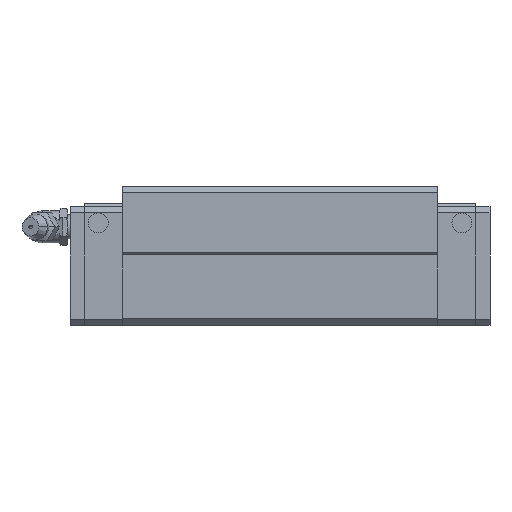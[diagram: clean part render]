
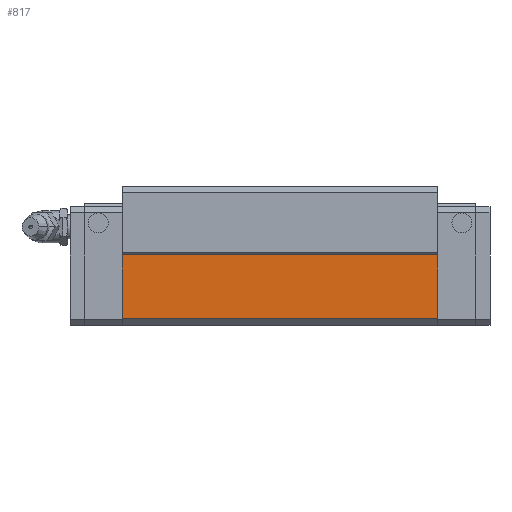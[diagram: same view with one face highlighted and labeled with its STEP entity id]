
A CAD part, front view. The second image highlights one B-rep face of the part: STEP entity #817.
In plain terms, the highlighted planar face has unit normal (0, -1, 0).
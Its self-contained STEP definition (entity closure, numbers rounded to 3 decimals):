
#756=CARTESIAN_POINT('POINT46',(91.6,-23.5,
   1.8));
#757=VERTEX_POINT('VERTEX46',#756);
#764=CARTESIAN_POINT('POINT47',(13.,-23.5,
   1.8));
#765=VERTEX_POINT('VERTEX47',#764);
#766=CARTESIAN_POINT('POS77',(13.,-23.5,
   1.8));
#767=DIRECTION('DIR116',(1.,0.,0.));
#768=VECTOR('VEC38',#767,1.);
#769=LINE('STRAIGHT38',#766,#768);
#770=EDGE_CURVE('EDGE76',#765,#757,#769,.T.);
#787=CARTESIAN_POINT('POINT48',(91.6,-23.5,
   17.5));
#788=VERTEX_POINT('VERTEX48',#787);
#789=CARTESIAN_POINT('POS80',(91.6,-23.5,
   17.5));
#790=DIRECTION('DIR120',(0.,0.,1.));
#791=VECTOR('VEC40',#790,1.);
#792=LINE('STRAIGHT40',#789,#791);
#793=EDGE_CURVE('EDGE78',#757,#788,#792,.T.);
#794=ORIENTED_EDGE('COEDGE143',*,*,#793,.T.);
#795=CARTESIAN_POINT('POINT49',(13.,-23.5,
   17.5));
#796=VERTEX_POINT('VERTEX49',#795);
#797=CARTESIAN_POINT('POS81',(13.,-23.5,
   17.5));
#798=DIRECTION('DIR121',(1.,0.,0.));
#799=VECTOR('VEC41',#798,1.);
#800=LINE('STRAIGHT41',#797,#799);
#801=EDGE_CURVE('EDGE79',#796,#788,#800,.T.);
#802=ORIENTED_EDGE('COEDGE144',*,*,#801,.F.);
#803=CARTESIAN_POINT('POS82',(13.,-23.5,
   17.5));
#804=DIRECTION('DIR122',(0.,0.,-1.));
#805=VECTOR('VEC42',#804,1.);
#806=LINE('STRAIGHT42',#803,#805);
#807=EDGE_CURVE('EDGE80',#796,#765,#806,.T.);
#808=ORIENTED_EDGE('COEDGE145',*,*,#807,.T.);
#809=ORIENTED_EDGE('COEDGE146',*,*,#770,.T.);
#810=EDGE_LOOP('NONE',(#794,#802,#808,#809));
#811=FACE_BOUND('LOOP1',#810,.T.);
#812=CARTESIAN_POINT('POS83',(13.,-23.5,
   1.8));
#813=DIRECTION('DIR123',(0.,-1.,0.));
#814=DIRECTION('DIR124',(1.,0.,0.));
#815=AXIS2_PLACEMENT_3D('AXIS41',#812,#813,#814);
#816=PLANE('PLANE6',#815);
#817=ADVANCED_FACE('FACE38',(#811),#816,.T.);
